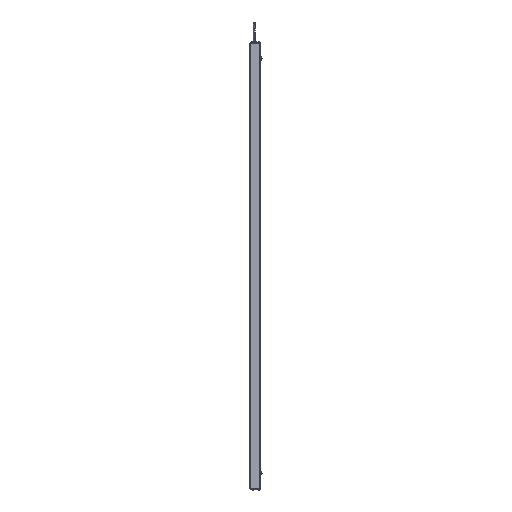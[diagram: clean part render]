
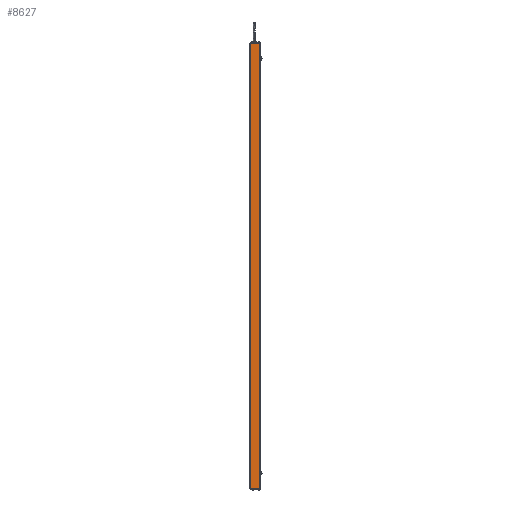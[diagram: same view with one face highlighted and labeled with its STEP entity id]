
A CAD part, left-side view. The second image highlights one B-rep face of the part: STEP entity #8627.
In plain terms, the highlighted planar face has unit normal (-1, 0, 0).
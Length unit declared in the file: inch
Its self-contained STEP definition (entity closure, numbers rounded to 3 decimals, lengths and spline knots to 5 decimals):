
#1016 = LINE ( 'NONE', #17771, #8478 ) ;
#1098 = EDGE_CURVE ( 'NONE', #13306, #1452, #18280, .T. ) ;
#1273 = VECTOR ( 'NONE', #8423, 39.37008 ) ;
#1321 = EDGE_CURVE ( 'NONE', #13306, #5596, #1016, .T. ) ;
#1342 = DIRECTION ( 'NONE',  ( 1., 0., 0. ) ) ;
#1452 = VERTEX_POINT ( 'NONE', #9371 ) ;
#2712 = CARTESIAN_POINT ( 'NONE',  ( -0.665, 0.015, 24.7275 ) ) ;
#2763 = DIRECTION ( 'NONE',  ( 0., 0., -1. ) ) ;
#3041 = CARTESIAN_POINT ( 'NONE',  ( -0.665, 0., -24.7275 ) ) ;
#3366 = ORIENTED_EDGE ( 'NONE', *, *, #17299, .T. ) ;
#3378 = EDGE_CURVE ( 'NONE', #5596, #4153, #15686, .T. ) ;
#4153 = VERTEX_POINT ( 'NONE', #11479 ) ;
#4246 = DIRECTION ( 'NONE',  ( 0., -1., 0. ) ) ;
#5596 = VERTEX_POINT ( 'NONE', #17791 ) ;
#6440 = AXIS2_PLACEMENT_3D ( 'NONE', #11212, #1342, #2763 ) ;
#7494 = ORIENTED_EDGE ( 'NONE', *, *, #3378, .T. ) ;
#8423 = DIRECTION ( 'NONE',  ( 0., 0., 1. ) ) ;
#8478 = VECTOR ( 'NONE', #9062, 39.37008 ) ;
#8627 = ADVANCED_FACE ( 'NONE', ( #10445 ), #17261, .F. ) ;
#9062 = DIRECTION ( 'NONE',  ( 0., 0., -1. ) ) ;
#9371 = CARTESIAN_POINT ( 'NONE',  ( -0.665, 0.015, 24.7275 ) ) ;
#10021 = CARTESIAN_POINT ( 'NONE',  ( -0.665, 0., 24.7275 ) ) ;
#10270 = DIRECTION ( 'NONE',  ( 0., -1., 0. ) ) ;
#10445 = FACE_OUTER_BOUND ( 'NONE', #18502, .T. ) ;
#11212 = CARTESIAN_POINT ( 'NONE',  ( -0.665, 0., 24.7275 ) ) ;
#11446 = VECTOR ( 'NONE', #4246, 39.37008 ) ;
#11479 = CARTESIAN_POINT ( 'NONE',  ( -0.665, 0.015, -24.7275 ) ) ;
#13306 = VERTEX_POINT ( 'NONE', #15891 ) ;
#14538 = VECTOR ( 'NONE', #10270, 39.37008 ) ;
#15304 = LINE ( 'NONE', #2712, #1273 ) ;
#15686 = LINE ( 'NONE', #3041, #14538 ) ;
#15891 = CARTESIAN_POINT ( 'NONE',  ( -0.665, 1.105, 24.7275 ) ) ;
#16445 = ORIENTED_EDGE ( 'NONE', *, *, #1098, .F. ) ;
#17261 = PLANE ( 'NONE',  #6440 ) ;
#17299 = EDGE_CURVE ( 'NONE', #4153, #1452, #15304, .T. ) ;
#17771 = CARTESIAN_POINT ( 'NONE',  ( -0.665, 1.105, 24.7275 ) ) ;
#17791 = CARTESIAN_POINT ( 'NONE',  ( -0.665, 1.105, -24.7275 ) ) ;
#18280 = LINE ( 'NONE', #10021, #11446 ) ;
#18353 = ORIENTED_EDGE ( 'NONE', *, *, #1321, .T. ) ;
#18502 = EDGE_LOOP ( 'NONE', ( #16445, #18353, #7494, #3366 ) ) ;
